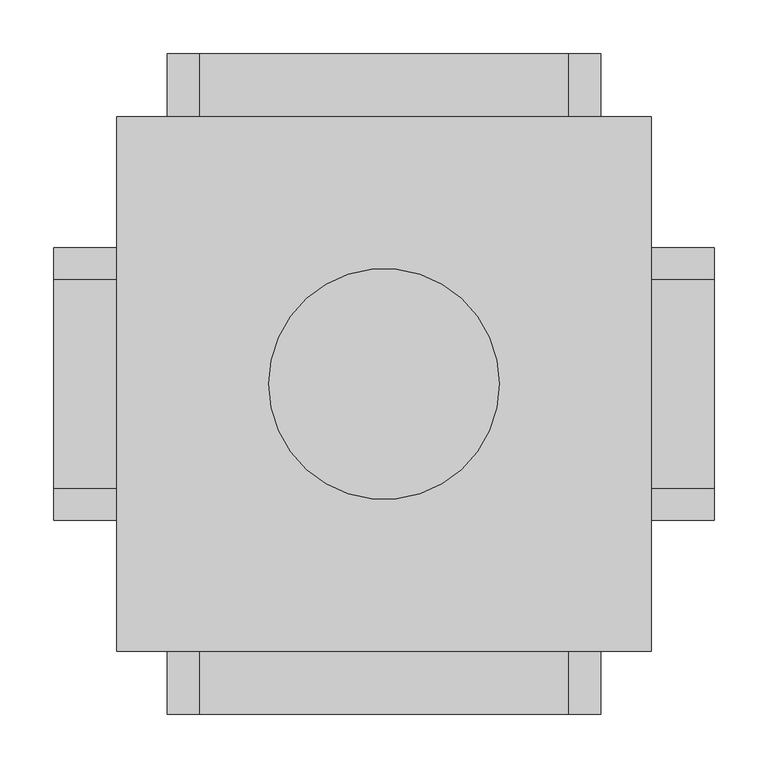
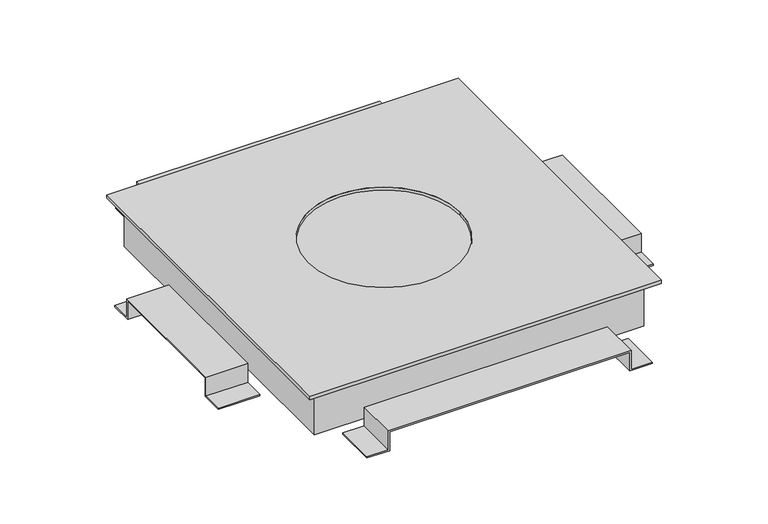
"""IFC4 building model written with IfcOpenShell, lengths in millimetres: cable carrier fitting geometry, Electrical-Installations_Hager_Universal-Junction-Box-With-Retaining-Tabs-Size-3 : Universal junction box with retaining tabs size 3."""

from ifc_helpers import new_model, si_unit, frame, origin, place, context, project, spatial, polyline, circle_curve, outline, extrude, faceted_brep, source, transform, mapped, element, save
from ifc_brep_helpers import plane_surface, revolved_surface, advanced_brep


def cable_carrier_fitting_6f266b18(model_context):
    return source(origin(), model_context, "Body", "SolidModel", [
        extrude(outline(polyline([(-14.0, -202.0), (-14.0, -170.0), (14.0, -170.0), (14.0, 170.0), (-14.0, 170.0), (-14.0, 202.0), (-12.0, 202.0), (-12.0, 172.0), (16.0, 172.0), (16.0, -172.0), (-12.0, -172.0), (-12.0, -202.0), (-14.0, -202.0)])), frame((0.0, 249.0, 0.0), z_axis=(0.0, 1.0, 0.0), x_axis=(0.0, 0.0, 1.0)), (0.0, 0.0, 1.0), 59.0),
        extrude(outline(polyline([(-127.0, -14.0), (-127.0, -12.0), (-97.0, -12.0), (-97.0, 16.0), (97.0, 16.0), (97.0, -12.0), (127.0, -12.0), (127.0, -14.0), (95.0, -14.0), (95.0, 14.0), (-95.0, 14.0), (-95.0, -14.0), (-127.0, -14.0)])), frame((-308.0, 0.0, 0.0), z_axis=(1.0, 0.0, 0.0), x_axis=(0.0, 1.0, 0.0)), (0.0, 0.0, 1.0), 59.0),
        extrude(outline(polyline([(-14.0, -202.0), (-14.0, -170.0), (14.0, -170.0), (14.0, 170.0), (-14.0, 170.0), (-14.0, 202.0), (-12.0, 202.0), (-12.0, 172.0), (16.0, 172.0), (16.0, -172.0), (-12.0, -172.0), (-12.0, -202.0), (-14.0, -202.0)])), frame((0.0, -308.0, 0.0), z_axis=(0.0, 1.0, 0.0), x_axis=(0.0, 0.0, 1.0)), (0.0, 0.0, 1.0), 59.0),
        extrude(outline(polyline([(-127.0, -14.0), (-127.0, -12.0), (-97.0, -12.0), (-97.0, 16.0), (97.0, 16.0), (97.0, -12.0), (127.0, -12.0), (127.0, -14.0), (95.0, -14.0), (95.0, 14.0), (-95.0, 14.0), (-95.0, -14.0), (-127.0, -14.0)])), frame((249.0, 0.0, 0.0), z_axis=(1.0, 0.0, 0.0), x_axis=(0.0, 1.0, 0.0)), (0.0, 0.0, 1.0), 59.0),
        advanced_brep(
        [(-249.0, -249.0, 59.0), (249.0, -249.0, 59.0), (249.0, 249.0, 59.0), (-249.0, 249.0, 59.0), (-107.5, 0.0, 59.0), (107.5, 0.0, 59.0), (-249.0, -249.0, 54.0), (-249.0, 249.0, 54.0), (249.0, 249.0, 54.0), (249.0, -249.0, 54.0), (227.0, 227.0, 54.0), (-227.0, 227.0, 54.0), (-227.0, -227.0, 54.0), (227.0, -227.0, 54.0), (-107.5, 0.0, 54.7820613), (107.5, 0.0, 54.7820613), (227.0, 227.0, 54.7820613), (227.0, -227.0, 54.7820613), (-227.0, -227.0, 54.7820613), (-227.0, 227.0, 54.7820613)],
        [
            (0, 1),
            (1, 2),
            (2, 3),
            (3, 0),
            (4, 5, circle_curve(frame((0.0, 0.0, 59.0), z_axis=(0.0, 0.0, -1.0), x_axis=(1.0, 0.0, 0.0)), 107.5)),
            (5, 4, circle_curve(frame((0.0, 0.0, 59.0), z_axis=(0.0, 0.0, -1.0), x_axis=(1.0, 0.0, 0.0)), 107.5)),
            (6, 7),
            (7, 8),
            (8, 9),
            (9, 6),
            (10, 11),
            (11, 12),
            (12, 13),
            (13, 10),
            (0, 6),
            (9, 1),
            (8, 2),
            (7, 3),
            (4, 14),
            (14, 15, circle_curve(frame((0.0, 0.0, 54.7820613), z_axis=(0.0, 0.0, -1.0), x_axis=(1.0, 0.0, 0.0)), 107.5)),
            (15, 5),
            (15, 14, circle_curve(frame((0.0, 0.0, 54.7820613), z_axis=(0.0, 0.0, -1.0), x_axis=(1.0, 0.0, 0.0)), 107.5)),
            (16, 17),
            (17, 18),
            (18, 19),
            (19, 16),
            (19, 11),
            (10, 16),
            (18, 12),
            (17, 13),
        ],
        [
            plane_surface(frame((-249.0, -249.0, 59.0), z_axis=(0.0, 0.0, 1.0), x_axis=(1.0, 0.0, 0.0))),
            plane_surface(frame((-249.0, -249.0, 54.0), z_axis=(0.0, 0.0, -1.0), x_axis=(-1.0, 0.0, 0.0))),
            plane_surface(frame((-249.0, -249.0, 59.0), z_axis=(0.0, -1.0, 0.0), x_axis=(0.0, 0.0, -1.0))),
            plane_surface(frame((249.0, -249.0, 59.0), z_axis=(1.0, 0.0, 0.0), x_axis=(0.0, 0.0, -1.0))),
            plane_surface(frame((249.0, 249.0, 59.0), z_axis=(0.0, 1.0, 0.0), x_axis=(0.0, 0.0, -1.0))),
            plane_surface(frame((-249.0, 249.0, 59.0), z_axis=(-1.0, 0.0, 0.0), x_axis=(0.0, 0.0, -1.0))),
            revolved_surface(polyline([(107.5, 0.0, 54.7820613), (107.5, 0.0, 59.0)]), (0.0, 0.0, 0.0), (0.0, 0.0, -1.0)),
            plane_surface(frame((-227.0, 227.0, 54.7820613), z_axis=(0.0, 0.0, -1.0), x_axis=(-1.0, 0.0, 0.0))),
            plane_surface(frame((227.0, 227.0, 54.7820613), z_axis=(0.0, -1.0, 0.0), x_axis=(0.0, 0.0, -1.0))),
            plane_surface(frame((-227.0, 227.0, 54.7820613), z_axis=(1.0, 0.0, 0.0), x_axis=(0.0, 0.0, -1.0))),
            plane_surface(frame((-227.0, -227.0, 54.7820613), z_axis=(0.0, 1.0, 0.0), x_axis=(0.0, 0.0, -1.0))),
            plane_surface(frame((227.0, -227.0, 54.7820613), z_axis=(-1.0, 0.0, 0.0), x_axis=(0.0, 0.0, -1.0))),
        ],
        [
            (0, [[1, 2, 3, 4], [5, 6]]),
            (1, [[7, 8, 9, 10], [11, 12, 13, 14]]),
            (2, [[-1, 15, -10, 16]]),
            (3, [[-2, -16, -9, 17]]),
            (4, [[-3, -17, -8, 18]]),
            (5, [[-4, -18, -7, -15]]),
            (6, [[-5, 19, 20, 21]]),
            (6, [[-6, -21, 22, -19]]),
            (7, [[23, 24, 25, 26], [-20, -22]]),
            (8, [[-26, 27, -11, 28]]),
            (9, [[-25, 29, -12, -27]]),
            (10, [[-24, 30, -13, -29]]),
            (11, [[-23, -28, -14, -30]]),
        ],
    ),
        faceted_brep([(-233.0, 233.0, 54.0), (-233.0, -233.0, 54.0), (233.0, -233.0, 54.0), (233.0, 233.0, 54.0), (-227.0, 227.0, 54.0), (227.0, 227.0, 54.0), (227.0, -227.0, 54.0), (-227.0, -227.0, 54.0), (-233.0, 233.0, -14.0), (233.0, 233.0, -14.0), (233.0, -233.0, -14.0), (-233.0, -233.0, -14.0), (227.0, 227.0, -6.1362798), (-227.0, 227.0, -6.1362798), (-227.0, -227.0, -6.1362798), (227.0, -227.0, -6.1362798)], [[[0, 1, 2, 3], [4, 5, 6, 7]], [[8, 9, 10, 11]], [[1, 0, 8, 11]], [[2, 1, 11, 10]], [[3, 2, 10, 9]], [[0, 3, 9, 8]], [[12, 13, 14, 15]], [[13, 12, 5, 4]], [[14, 13, 4, 7]], [[15, 14, 7, 6]], [[12, 15, 6, 5]]]),
    ])


if __name__ == "__main__":
    model = new_model("IFC4")
    model_context = context("Model", 3, world=origin())
    ifc_project = project(units=[si_unit("LENGTHUNIT", "METRE", prefix="MILLI")], contexts=[model_context])
    site = spatial("IfcSite", under=ifc_project)
    building = spatial("IfcBuilding", under=site)
    placement = place(None, origin())
    cable_carrier_fitting_shape = cable_carrier_fitting_6f266b18(model_context)
    element("IfcCableCarrierFitting", 1, ObjectType="Electrical-Installations_Hager_Universal-Junction-Box-With-Retaining-Tabs-Size-3 : Universal junction box with retaining tabs size 3", at=placement, inside=building, context=model_context, shape_type="MappedRepresentation", body=[
        mapped(cable_carrier_fitting_shape, transform((0.0, 0.0, 0.0), x_axis=(1.0, 0.0, 0.0), y_axis=(0.0, 1.0, 0.0), z_axis=(0.0, 0.0, 1.0))),
    ])
    save(model, "model.ifc")
